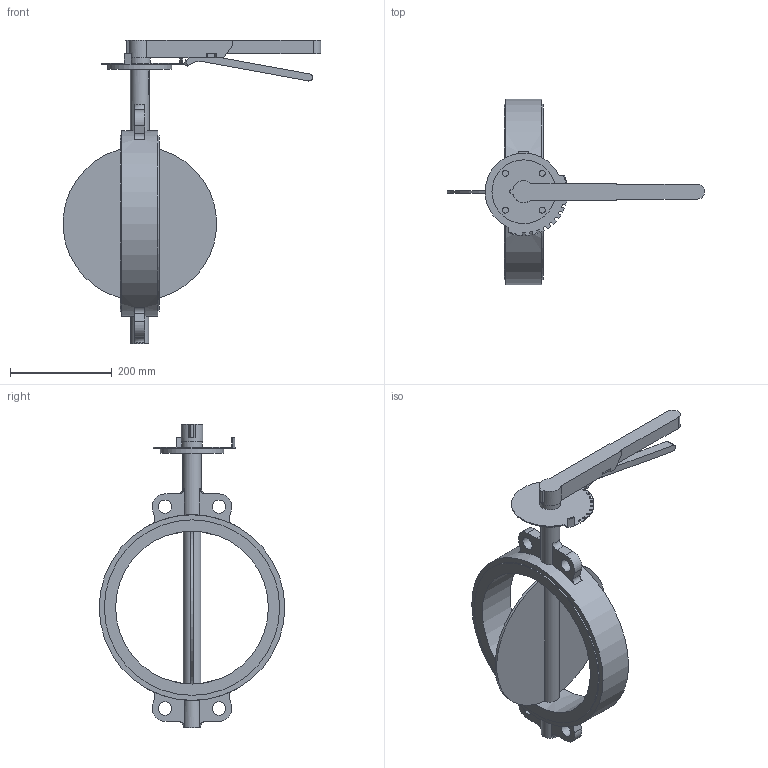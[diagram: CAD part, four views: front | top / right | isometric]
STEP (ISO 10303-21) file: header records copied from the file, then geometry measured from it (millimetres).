
FILE_DESCRIPTION(('STEP AP203'), '1');
FILE_NAME('Çàòâîð 017W.Y_DN300_PN16_ðóêîÿòü', '', ('UNSPECIFIED'), ('UNSPECIFIED'), 'ASCON STEP Converter 1.6', 'ASCON Math Kernel', '');
FILE_SCHEMA(('CONFIG_CONTROL_DESIGN'));
Length unit declared in the file: millimetre
Bounding box: 505.2 x 364.2 x 596 mm (x, y, z)
Volume: 4061774 mm3; surface area: 532899.8 mm2
Topology: 1 solids, 1 shells, 196 faces, 529 edges, 350 vertices
Faces by surface type: plane 110, cylinder 82, torus 4
Full cylindrical faces by diameter (mm): 12 x4, 26 x4, 35 x2, 37 x1, 41 x1, 125 x1, 300 x1, 344.2 x2, 364.2 x1
Entity records: 8711 total; most frequent: CARTESIAN_POINT 2067, DIRECTION 1072, ORIENTED_EDGE 1024, EDGE_CURVE 512, AXIS2_PLACEMENT_3D 383, VERTEX_POINT 350, LINE 306, VECTOR 306
